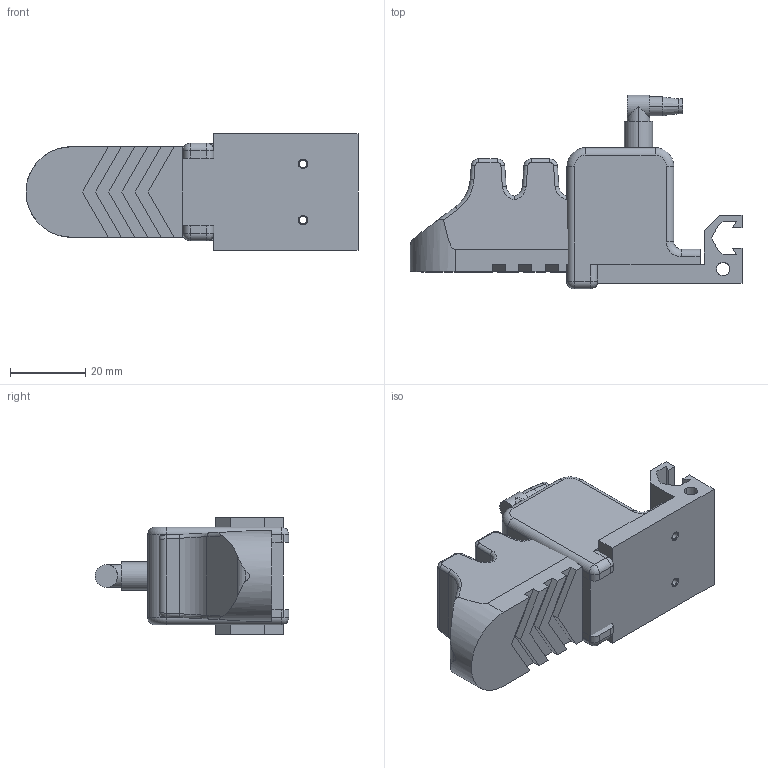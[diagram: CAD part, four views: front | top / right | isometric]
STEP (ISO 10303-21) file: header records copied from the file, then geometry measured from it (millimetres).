
FILE_DESCRIPTION (( 'STEP AP214' ), '1' );
FILE_NAME ('GFM-A3V5.STEP', '2019-12-04T02:49:28', ( '微软用户' ), ( '微软中国' ), 'SwSTEP 2.0', 'SolidWorks 2016', '' );
FILE_SCHEMA (( 'AUTOMOTIVE_DESIGN' ));
Length unit declared in the file: millimetre
Products named in the file (1): GFM-A3V5
Bounding box: 88.2 x 51.5 x 31 mm (x, y, z)
Volume: 53088.9 mm3; surface area: 22030.8 mm2
Topology: 4 solids, 4 shells, 225 faces, 558 edges, 343 vertices
Faces by surface type: plane 91, cylinder 90, bspline 20, cone 14, torus 6, sphere 4
Entity records: 10639 total; most frequent: CARTESIAN_POINT 2884, ORIENTED_EDGE 1116, DIRECTION 1060, EDGE_CURVE 558, AXIS2_PLACEMENT_3D 372, VERTEX_POINT 343, VECTOR 316, LINE 316
